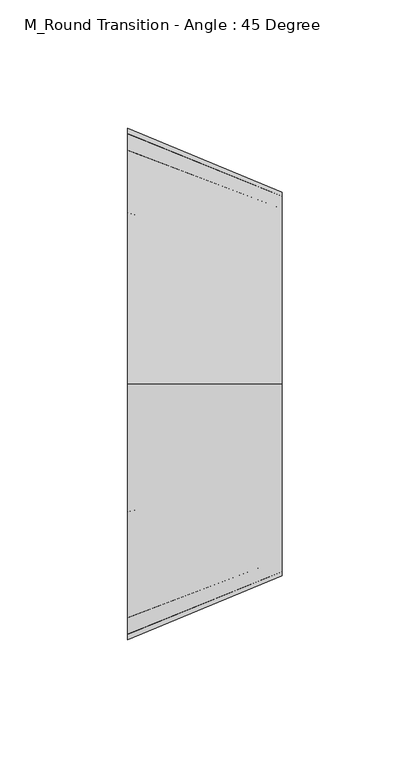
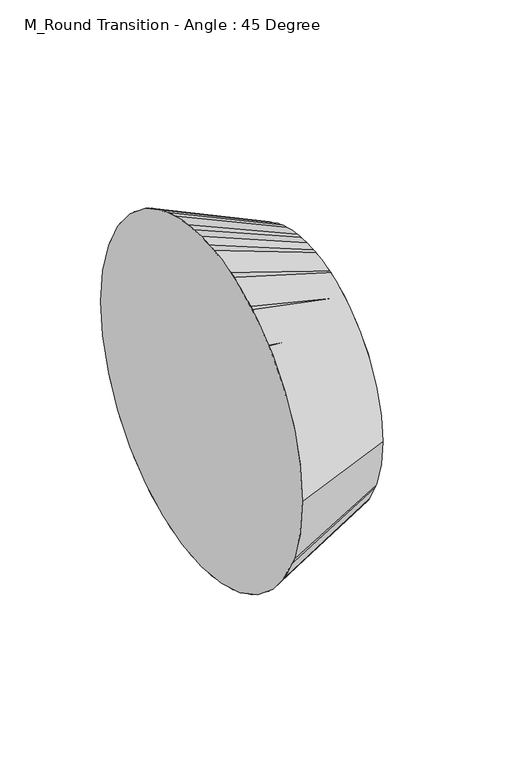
"""IFC4 building model written with IfcOpenShell, lengths in millimetres: duct fitting geometry, M_Round Transition - Angle : 45 Degree."""

from ifc_helpers import new_model, si_unit, frame, origin, place, context, project, spatial, circle_curve, source, transform, mapped, element, save
from ifc_brep_helpers import plane_surface, spline_surface, advanced_brep


def m_round_transition_angle_45_degree_540cdda2(model_context):
    return source(origin(), model_context, "Body", "AdvancedBrep", [
        advanced_brep(
        [(60.3553391, -75.0, 0.0051136), (60.3553391, 0.0, -74.9948864), (60.3553391, 75.0, 0.0051136), (60.3553391, 0.0, 75.0051136), (0.0, -100.0, 0.0), (0.0, 0.0, 100.0), (0.0, 100.0, 0.0), (0.0, 0.0, -100.0)],
        [
            (0, 1, circle_curve(frame((60.3553391, 0.0, 0.0051136), z_axis=(1.0, 0.0, 0.0), x_axis=(0.0, 1.0, 0.0)), 75.0)),
            (1, 2, circle_curve(frame((60.3553391, 0.0, 0.0051136), z_axis=(1.0, 0.0, 0.0), x_axis=(0.0, 1.0, 0.0)), 75.0)),
            (2, 3, circle_curve(frame((60.3553391, 0.0, 0.0051136), z_axis=(1.0, 0.0, 0.0), x_axis=(0.0, 1.0, 0.0)), 75.0)),
            (3, 0, circle_curve(frame((60.3553391, 0.0, 0.0051136), z_axis=(1.0, 0.0, 0.0), x_axis=(0.0, 1.0, 0.0)), 75.0)),
            (4, 5, circle_curve(frame((0.0, 0.0, 0.0), z_axis=(-1.0, 0.0, 0.0), x_axis=(0.0, 1.0, 0.0)), 100.0)),
            (5, 6, circle_curve(frame((0.0, 0.0, 0.0), z_axis=(-1.0, 0.0, 0.0), x_axis=(0.0, 1.0, 0.0)), 100.0)),
            (6, 7, circle_curve(frame((0.0, 0.0, 0.0), z_axis=(-1.0, 0.0, 0.0), x_axis=(0.0, 1.0, 0.0)), 100.0)),
            (7, 4, circle_curve(frame((0.0, 0.0, 0.0), z_axis=(-1.0, 0.0, 0.0), x_axis=(0.0, 1.0, 0.0)), 100.0)),
            (7, 1),
            (0, 4),
            (6, 2),
            (5, 3),
        ],
        [
            plane_surface(frame((60.3553391, 0.0, 0.0051136), z_axis=(1.0, 0.0, 0.0), x_axis=(0.0, 0.0, -1.0))),
            plane_surface(frame((0.0, 0.0, 0.0), z_axis=(-1.0, 0.0, 0.0), x_axis=(0.0, 0.0, -1.0))),
            spline_surface(2, 1, [[(0.0, -100.0, 0.0), (60.3553391, -75.0, 0.0051136)], [(0.0, -100.0, -100.0), (60.3553391, -75.0, -74.9948864)], [(0.0, 0.0, -100.0), (60.3553391, 0.0, -74.9948864)]], [3, 3], [2, 2], [0.0, 1.0], [0.0, 1.0], weights=[[1.0, 1.0], [0.7071067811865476, 0.7071067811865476], [1.0, 1.0]]),
            spline_surface(2, 1, [[(0.0, 0.0, -100.0), (60.3553391, 0.0, -74.9948864)], [(0.0, 100.0, -100.0), (60.3553391, 75.0, -74.9948864)], [(0.0, 100.0, 0.0), (60.3553391, 75.0, 0.0051136)]], [3, 3], [2, 2], [0.0, 1.0], [0.0, 1.0], weights=[[1.0, 1.0], [0.7071067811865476, 0.7071067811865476], [1.0, 1.0]]),
            spline_surface(2, 1, [[(0.0, 100.0, 0.0), (60.3553391, 75.0, 0.0051136)], [(0.0, 100.0, 100.0), (60.3553391, 75.0, 75.0051136)], [(0.0, 0.0, 100.0), (60.3553391, 0.0, 75.0051136)]], [3, 3], [2, 2], [0.0, 1.0], [0.0, 1.0], weights=[[1.0, 1.0], [0.7071067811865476, 0.7071067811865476], [1.0, 1.0]]),
            spline_surface(2, 1, [[(0.0, 0.0, 100.0), (60.3553391, 0.0, 75.0051136)], [(0.0, -100.0, 100.0), (60.3553391, -75.0, 75.0051136)], [(0.0, -100.0, 0.0), (60.3553391, -75.0, 0.0051136)]], [3, 3], [2, 2], [0.0, 1.0], [0.0, 1.0], weights=[[1.0, 1.0], [0.7071067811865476, 0.7071067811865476], [1.0, 1.0]]),
        ],
        [
            (0, [[1, 2, 3, 4]]),
            (1, [[5, 6, 7, 8]]),
            (2, [[-8, 9, -1, 10]]),
            (3, [[-7, 11, -2, -9]]),
            (4, [[-6, 12, -3, -11]]),
            (5, [[-5, -10, -4, -12]]),
        ],
    ),
        advanced_brep(
        [(0.0, -100.0, 0.0), (0.0, 0.0, 100.0), (0.0, 100.0, 0.0), (0.0, 0.0, -100.0), (60.3553391, -75.0, 0.0051136), (60.3553391, 0.0, -74.9948864), (60.3553391, 75.0, 0.0051136), (60.3553391, 0.0, 75.0051136)],
        [
            (0, 1, circle_curve(frame((0.0, 0.0, 0.0), z_axis=(-1.0, 0.0, 0.0), x_axis=(0.0, 1.0, 0.0)), 100.0)),
            (1, 2, circle_curve(frame((0.0, 0.0, 0.0), z_axis=(-1.0, 0.0, 0.0), x_axis=(0.0, 1.0, 0.0)), 100.0)),
            (2, 3, circle_curve(frame((0.0, 0.0, 0.0), z_axis=(-1.0, 0.0, 0.0), x_axis=(0.0, 1.0, 0.0)), 100.0)),
            (3, 0, circle_curve(frame((0.0, 0.0, 0.0), z_axis=(-1.0, 0.0, 0.0), x_axis=(0.0, 1.0, 0.0)), 100.0)),
            (4, 5, circle_curve(frame((60.3553391, 0.0, 0.0051136), z_axis=(1.0, 0.0, 0.0), x_axis=(0.0, 1.0, 0.0)), 75.0)),
            (5, 6, circle_curve(frame((60.3553391, 0.0, 0.0051136), z_axis=(1.0, 0.0, 0.0), x_axis=(0.0, 1.0, 0.0)), 75.0)),
            (6, 7, circle_curve(frame((60.3553391, 0.0, 0.0051136), z_axis=(1.0, 0.0, 0.0), x_axis=(0.0, 1.0, 0.0)), 75.0)),
            (7, 4, circle_curve(frame((60.3553391, 0.0, 0.0051136), z_axis=(1.0, 0.0, 0.0), x_axis=(0.0, 1.0, 0.0)), 75.0)),
            (7, 1),
            (0, 4),
            (6, 2),
            (5, 3),
        ],
        [
            plane_surface(frame((0.0, 0.0, 0.0), z_axis=(-1.0, 0.0, 0.0), x_axis=(0.0, 0.0, -1.0))),
            plane_surface(frame((60.3553391, 0.0, 0.0051136), z_axis=(1.0, 0.0, 0.0), x_axis=(0.0, 0.0, -1.0))),
            spline_surface(2, 1, [[(60.3553391, -75.0, 0.0051136), (0.0, -100.0, 0.0)], [(60.3553391, -75.0, 75.0051136), (0.0, -100.0, 100.0)], [(60.3553391, 0.0, 75.0051136), (0.0, 0.0, 100.0)]], [3, 3], [2, 2], [0.0, 1.0], [0.0, 1.0], weights=[[1.0, 1.0], [0.7071067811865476, 0.7071067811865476], [1.0, 1.0]]),
            spline_surface(2, 1, [[(60.3553391, 0.0, 75.0051136), (0.0, 0.0, 100.0)], [(60.3553391, 75.0, 75.0051136), (0.0, 100.0, 100.0)], [(60.3553391, 75.0, 0.0051136), (0.0, 100.0, 0.0)]], [3, 3], [2, 2], [0.0, 1.0], [0.0, 1.0], weights=[[1.0, 1.0], [0.7071067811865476, 0.7071067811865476], [1.0, 1.0]]),
            spline_surface(2, 1, [[(60.3553391, 75.0, 0.0051136), (0.0, 100.0, 0.0)], [(60.3553391, 75.0, -74.9948864), (0.0, 100.0, -100.0)], [(60.3553391, 0.0, -74.9948864), (0.0, 0.0, -100.0)]], [3, 3], [2, 2], [0.0, 1.0], [0.0, 1.0], weights=[[1.0, 1.0], [0.7071067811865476, 0.7071067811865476], [1.0, 1.0]]),
            spline_surface(2, 1, [[(60.3553391, 0.0, -74.9948864), (0.0, 0.0, -100.0)], [(60.3553391, -75.0, -74.9948864), (0.0, -100.0, -100.0)], [(60.3553391, -75.0, 0.0051136), (0.0, -100.0, 0.0)]], [3, 3], [2, 2], [0.0, 1.0], [0.0, 1.0], weights=[[1.0, 1.0], [0.7071067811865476, 0.7071067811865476], [1.0, 1.0]]),
        ],
        [
            (0, [[1, 2, 3, 4]]),
            (1, [[5, 6, 7, 8]]),
            (2, [[-8, 9, -1, 10]]),
            (3, [[-7, 11, -2, -9]]),
            (4, [[-6, 12, -3, -11]]),
            (5, [[-5, -10, -4, -12]]),
        ],
    ),
        advanced_brep(
        [(60.3553391, -75.0, 0.0051136), (60.3553391, 75.0, 0.0051136), (0.0, -100.0, 0.0), (0.0, 100.0, 0.0)],
        [
            (0, 1, circle_curve(frame((60.3553391, 0.0, 0.0051136), z_axis=(1.0, 0.0, 0.0), x_axis=(0.0, 1.0, 0.0)), 75.0)),
            (1, 0, circle_curve(frame((60.3553391, 0.0, 0.0051136), z_axis=(1.0, 0.0, 0.0), x_axis=(0.0, 1.0, 0.0)), 75.0)),
            (2, 3, circle_curve(frame((0.0, 0.0, 0.0), z_axis=(-1.0, 0.0, 0.0), x_axis=(0.0, 1.0, 0.0)), 100.0)),
            (3, 2, circle_curve(frame((0.0, 0.0, 0.0), z_axis=(-1.0, 0.0, 0.0), x_axis=(0.0, 1.0, 0.0)), 100.0)),
            (3, 1),
            (0, 2),
        ],
        [
            plane_surface(frame((60.3553391, 0.0, 0.0051136), z_axis=(1.0, 0.0, 0.0), x_axis=(0.0, 0.0, -1.0))),
            plane_surface(frame((0.0, 0.0, 0.0), z_axis=(-1.0, 0.0, 0.0), x_axis=(0.0, 0.0, -1.0))),
            spline_surface(2, 1, [[(0.0, -100.0, 0.0), (60.3553391, -75.0, 0.0051136)], [(0.0, -100.0, -100.0), (60.3553391, -75.0, -74.9948864)], [(0.0, 0.0, -100.0), (60.3553391, 0.0, -74.9948864)], [(0.0, 100.0, -100.0), (60.3553391, 75.0, -74.9948864)], [(0.0, 100.0, 0.0), (60.3553391, 75.0, 0.0051136)]], [3, 2, 3], [2, 2], [0.0, 1.0, 2.0], [0.0, 1.0], weights=[[1.0, 1.0], [0.7071067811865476, 0.7071067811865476], [1.0, 1.0], [0.7071067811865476, 0.7071067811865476], [1.0, 1.0]]),
            spline_surface(2, 1, [[(0.0, 100.0, 0.0), (60.3553391, 75.0, 0.0051136)], [(0.0, 100.0, 100.0), (60.3553391, 75.0, 75.0051136)], [(0.0, 0.0, 100.0), (60.3553391, 0.0, 75.0051136)], [(0.0, -100.0, 100.0), (60.3553391, -75.0, 75.0051136)], [(0.0, -100.0, 0.0), (60.3553391, -75.0, 0.0051136)]], [3, 2, 3], [2, 2], [0.0, 1.0, 2.0], [0.0, 1.0], weights=[[1.0, 1.0], [0.7071067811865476, 0.7071067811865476], [1.0, 1.0], [0.7071067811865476, 0.7071067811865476], [1.0, 1.0]]),
        ],
        [
            (0, [[1, 2]]),
            (1, [[3, 4]]),
            (2, [[-4, 5, -1, 6]]),
            (3, [[-3, -6, -2, -5]]),
        ],
    ),
    ])


if __name__ == "__main__":
    model = new_model("IFC4")
    model_context = context("Model", 3, world=origin())
    ifc_project = project(units=[si_unit("LENGTHUNIT", "METRE", prefix="MILLI")], contexts=[model_context])
    site = spatial("IfcSite", under=ifc_project)
    building = spatial("IfcBuilding", under=site)
    placement = place(None, origin())
    m_round_transition_angle_45_degree_shape = m_round_transition_angle_45_degree_540cdda2(model_context)
    element("IfcDuctFitting", 1, ObjectType="M_Round Transition - Angle : 45 Degree", at=placement, inside=building, context=model_context, shape_type="MappedRepresentation", body=[
        mapped(m_round_transition_angle_45_degree_shape, transform((0.0, 0.0, 0.0), x_axis=(1.0, 0.0, 0.0), y_axis=(0.0, 1.0, 0.0), z_axis=(0.0, 0.0, 1.0))),
    ])
    save(model, "model.ifc")
